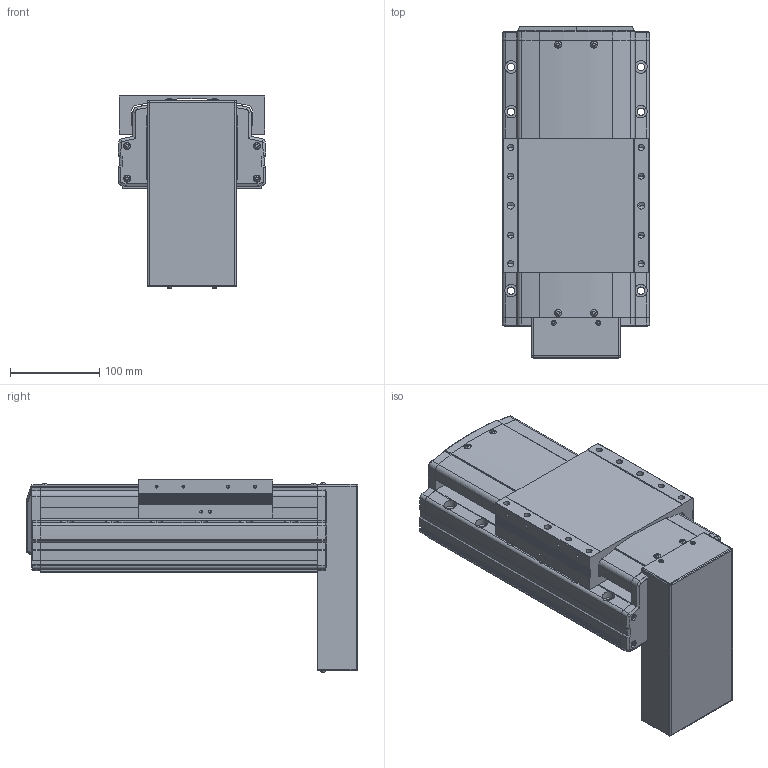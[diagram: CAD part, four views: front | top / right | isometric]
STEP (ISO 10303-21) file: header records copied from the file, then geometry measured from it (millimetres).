
FILE_DESCRIPTION(('STEP AP214'),'1');
FILE_NAME('Z:/Web/3D/PSA165/STP/PSA165-050 (3D)/PSA165ㅁㅁ-050PB.stp','2014-06-23T06:29:45',(' '),(' '),'Spatial InterOp 3D',' ',' ');
FILE_SCHEMA(('automotive_design'));
Length unit declared in the file: millimetre
Products named in the file (29): 스크루 : Round - M4.0 x 12.0; RRCV-PA160; BASE; 스크루 : Round - M4.0 x 10.0; RN15; Screw 20; SLIDE; FRCV; MTPL CV- PB; 스크루 : Round - M3.0 x 6.0; 1; 2
Bounding box: 165 x 370.8 x 215.96 mm (x, y, z)
Volume: 5688133 mm3; surface area: 496097.3 mm2
Topology: 29 solids, 29 shells, 2013 faces, 5372 edges, 3435 vertices
Faces by surface type: plane 1146, cylinder 594, cone 180, sphere 52, bspline 25, torus 16
Entity records: 81647 total; most frequent: CARTESIAN_POINT 14389, DIRECTION 10693, ORIENTED_EDGE 10520, EDGE_CURVE 5260, LINE 3575, VECTOR 3575, AXIS2_PLACEMENT_3D 3559, VERTEX_POINT 3435
